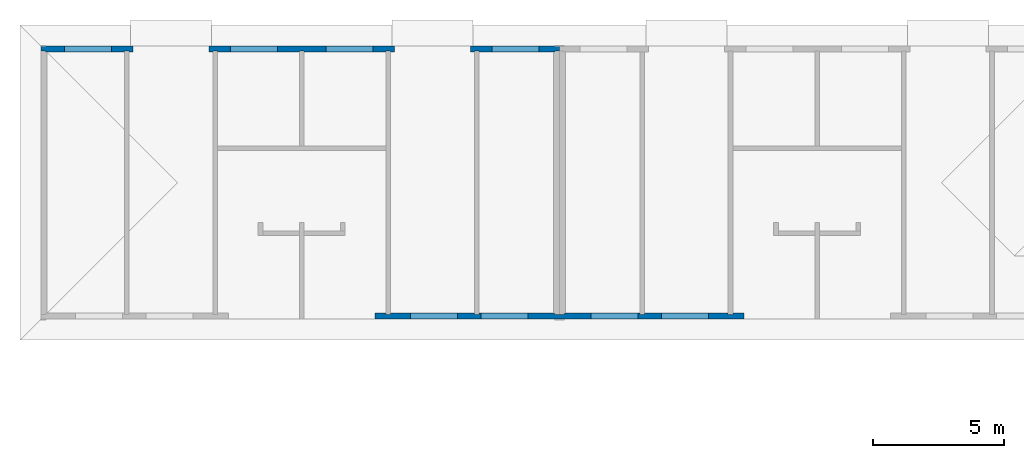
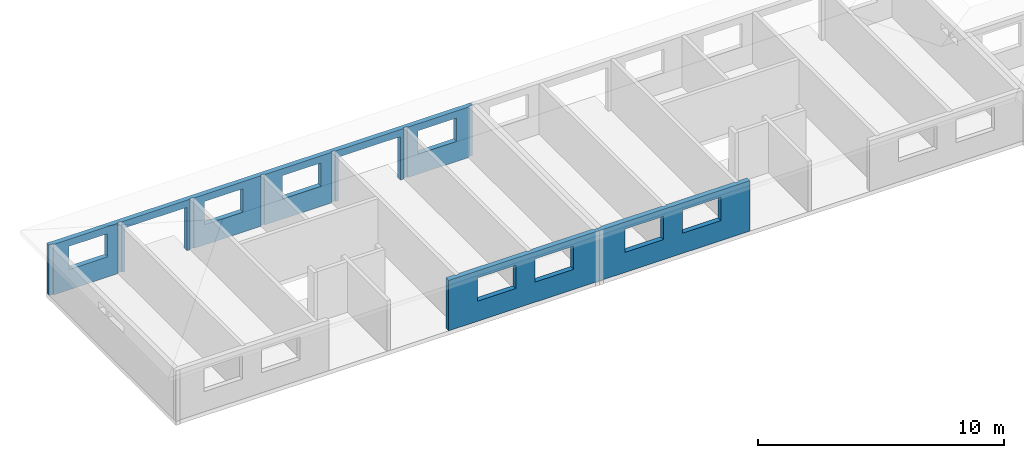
# One storey, part 3 of 9: 2 walls, 10 openings.
"""IFC2X3 building model written with IfcOpenShell, lengths in millimetres."""

from ifc_helpers import new_model, entity, si_unit, converted_unit, frame, frame_2d, origin, origin_with_axes, place, context, subcontext, project, spatial, polyline, rectangle, outline, extrude, material, layer, layer_set, layer_usage, element, save


model = new_model("IFC2X3")

# Units and contexts
model_context = context("Model", 3, precision=1e-05, world=origin())
plan_context = context("Plan", 3, precision=1e-05, world=origin())
body_context = subcontext(model_context, "Body", "Model", "MODEL_VIEW")
ifc_project = project(units=[si_unit("LENGTHUNIT", "METRE", prefix="MILLI"), converted_unit("PLANEANGLEUNIT", "DEGREE", entity("IfcPlaneAngleMeasure", 0.0174532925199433), si_unit("PLANEANGLEUNIT", "RADIAN"), dimensions=[0, 0, 0, 0, 0, 0, 0]), si_unit("AREAUNIT", "SQUARE_METRE"), si_unit("VOLUMEUNIT", "CUBIC_METRE")], contexts=[model_context, plan_context])

# Building, storey
building_placement = place(None, origin())
building = spatial("IfcBuilding", under=ifc_project, at=building_placement, Name="Bâtiment", CompositionType="ELEMENT")
storey_placement = place(building_placement, frame((0.0, 0.0, 8100.0), z_axis=(0.0, 0.0, 1.0), x_axis=(1.0, 0.0, 0.0)))
storey = spatial("IfcBuildingStorey", under=building, at=storey_placement, Name="r+3", CompositionType="ELEMENT", Elevation=8100.0)

# Wall, openings
ifc_material_1 = material(Name="moellons")
ifc_layer_1 = layer(ifc_material_1, 180.0)
ifc_material_2 = material(Name="briquettes")
ifc_layer_2 = layer(ifc_material_2, 40.0)
ifc_material_3 = material(Name="enduit platre")
ifc_layer_3 = layer(ifc_material_3, 10.0)
ifc_layer_set_1 = layer_set([ifc_layer_1, ifc_layer_2, ifc_layer_3])
ifc_layer_usage_1 = layer_usage(ifc_layer_set_1, "AXIS2", "POSITIVE", 0.0)
wall_1_placement = place(storey_placement, frame((12795.0005468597, 20.16279356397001, 0.0), z_axis=(0.0, 0.0, 1.0), x_axis=(1.0, 0.0, 0.0)))
wall_1 = element("IfcWallStandardCase", 1, at=wall_1_placement, inside=storey, material=ifc_layer_usage_1, context=body_context, shape_type="SweptSolid", body=[
    extrude(outline(polyline([(7274.999453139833, 230.0), (7274.999453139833, 220.0), (7234.999453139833, 220.0), (7234.999453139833, 180.0), (6874.999453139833, 180.0), (6874.999453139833, 220.0), (6834.999453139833, 220.0), (6834.999453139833, 230.0), (3974.999453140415, 230.0), (3974.999453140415, 179.9147573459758), (3794.999453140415, 179.9147573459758), (3794.999453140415, 230.0), (594.999391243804, 230.0), (594.999391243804, 179.9147573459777), (414.999391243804, 179.9147573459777), (414.999391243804, 230.0), (0.0, 230.0), (0.0, 0.0), (14109.99999999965, 0.0), (14109.99999999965, 230.0), (13694.99951490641, 230.0), (13694.99951490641, 179.914757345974), (13514.99951490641, 179.914757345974), (13514.99951490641, 230.0), (10314.99945313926, 230.0), (10314.99945313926, 179.914757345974), (10134.99945313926, 179.914757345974), (10134.99945313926, 230.0), (7274.999453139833, 230.0)])), origin_with_axes(), (0.0, 0.0, 1.0), 2500.0),
])
opening_1_placement = place(wall_1_placement, frame((10959.99945313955, 0.0, 1000.0), z_axis=(0.0, 1.0, 0.0), x_axis=(0.0, 0.0, 1.0)))
element("IfcOpeningElement", 2, at=opening_1_placement, cuts=wall_1, Name="Baie de fenêtre", ObjectType="Opening", context=body_context, shape_type="SweptSolid", body=[
    extrude(rectangle(XDim=1150.0, YDim=1800.0, at=frame_2d((575.0, 900.0), x_axis=(1.0, 0.0))), origin_with_axes(), (0.0, 0.0, 1.0), 230.0),
])
opening_2_placement = place(wall_1_placement, frame((8259.999453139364, 0.0, 1000.0), z_axis=(0.0, 1.0, 0.0), x_axis=(0.0, 0.0, 1.0)))
element("IfcOpeningElement", 3, at=opening_2_placement, cuts=wall_1, Name="Baie de fenêtre", ObjectType="Opening", context=body_context, shape_type="SweptSolid", body=[
    extrude(rectangle(XDim=1150.0, YDim=1800.0, at=frame_2d((575.0, 900.0), x_axis=(1.0, 0.0))), origin_with_axes(), (0.0, 0.0, 1.0), 230.0),
])
opening_3_placement = place(wall_1_placement, frame((4049.999453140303, 0.0, 1000.0), z_axis=(0.0, 1.0, 0.0), x_axis=(0.0, 0.0, 1.0)))
element("IfcOpeningElement", 4, at=opening_3_placement, cuts=wall_1, Name="Baie de fenêtre", ObjectType="Opening", context=body_context, shape_type="SweptSolid", body=[
    extrude(rectangle(XDim=1150.0, YDim=1800.0, at=frame_2d((575.0, 900.0), x_axis=(1.0, 0.0))), origin_with_axes(), (0.0, 0.0, 1.0), 230.0),
])
opening_4_placement = place(wall_1_placement, frame((1349.999453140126, 0.0, 1000.0), z_axis=(0.0, 1.0, 0.0), x_axis=(0.0, 0.0, 1.0)))
element("IfcOpeningElement", 5, at=opening_4_placement, cuts=wall_1, Name="Baie de fenêtre", ObjectType="Opening", context=body_context, shape_type="SweptSolid", body=[
    extrude(rectangle(XDim=1150.0, YDim=1800.0, at=frame_2d((575.0, 900.0), x_axis=(1.0, 0.0))), origin_with_axes(), (0.0, 0.0, 1.0), 230.0),
])

ifc_material_4 = material(Name="moellons")
ifc_layer_4 = layer(ifc_material_4, 180.0000000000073)
ifc_material_5 = material(Name="briquettes")
ifc_layer_5 = layer(ifc_material_5, 40.0)
ifc_material_6 = material(Name="enduit platre")
ifc_layer_6 = layer(ifc_material_6, 10.0)
ifc_layer_set_2 = layer_set([ifc_layer_4, ifc_layer_5, ifc_layer_6])
ifc_layer_usage_2 = layer_usage(ifc_layer_set_2, "AXIS2", "POSITIVE", 0.0)
wall_2_placement = place(storey_placement, frame((19849.99999999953, 10470.07776548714, 0.0), z_axis=(0.0, 0.0, 1.0), x_axis=(-1.0, 9.163674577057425e-17, 0.0)))
wall_2 = element("IfcWallStandardCase", 6, at=wall_2_placement, inside=storey, material=ifc_layer_usage_2, context=body_context, shape_type="SweptSolid", body=[
    extrude(outline(polyline([(16649.99999999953, 179.9999999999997), (16469.99999999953, 180.0000000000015), (16469.99999999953, 229.9999999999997), (13269.99999999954, 230.0000000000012), (13269.99999999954, 179.9999999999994), (13089.99999999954, 180.0000000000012), (13089.99999999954, 230.0000000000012), (9954.999999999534, 230.0000000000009), (9954.999999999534, 179.9999999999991), (9774.999999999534, 180.0000000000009), (9774.999999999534, 230.0000000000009), (6640.000061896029, 230.0000000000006), (6640.000061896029, 180.0000000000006), (6460.000061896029, 180.0000000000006), (6460.000061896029, 230.0000000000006), (3259.999999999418, 230.0000000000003), (3259.999999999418, 180.0000000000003), (3079.999999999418, 180.0000000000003), (3079.999999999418, 230.0000000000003), (220.0, 230.0), (220.0, 220.0), (180.0, 220.0), (180.0, 180.0), (-1.649461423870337e-14, 180.0), (0.0, 0.0), (19849.99999999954, 0.0), (19849.99999999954, 180.0), (19669.99999999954, 180.0), (19669.99999999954, 220.0), (19629.99999999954, 220.0), (19629.99999999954, 230.0), (16649.99999999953, 229.9999999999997), (16649.99999999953, 179.9999999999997)])), origin_with_axes(), (0.0, 0.0, 1.0), 2500.0),
])
opening_5_placement = place(wall_2_placement, frame((3410.031276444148, 0.0, 0.0), z_axis=(0.0, 1.0, 0.0), x_axis=(0.0, 0.0, 1.0)))
element("IfcOpeningElement", 7, at=opening_5_placement, cuts=wall_2, Name="Baie de porte", ObjectType="Opening", context=body_context, shape_type="SweptSolid", body=[
    extrude(rectangle(XDim=2150.0, YDim=2900.0, at=frame_2d((1075.0, 1450.0), x_axis=(1.0, 0.0))), origin_with_axes(), (0.0, 0.0, 1.0), 230.0),
])
opening_6_placement = place(wall_2_placement, frame((13419.62981094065, -1.818989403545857e-12, 0.0), z_axis=(0.0, 1.0, 0.0), x_axis=(0.0, 0.0, 1.0)))
element("IfcOpeningElement", 8, at=opening_6_placement, cuts=wall_2, Name="Baie de porte", ObjectType="Opening", context=body_context, shape_type="SweptSolid", body=[
    extrude(rectangle(XDim=2150.0, YDim=2900.0, at=frame_2d((1075.0, 1450.0), x_axis=(1.0, 0.0))), origin_with_axes(), (0.0, 0.0, 1.0), 230.0000000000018),
])
opening_7_placement = place(wall_2_placement, frame((784.9999999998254, 0.0, 1000.0), z_axis=(0.0, 1.0, 0.0), x_axis=(0.0, 0.0, 1.0)))
element("IfcOpeningElement", 9, at=opening_7_placement, cuts=wall_2, Name="Baie de fenêtre", ObjectType="Opening", context=body_context, shape_type="SweptSolid", body=[
    extrude(rectangle(XDim=1150.0, YDim=1800.0, at=frame_2d((575.0, 900.0), x_axis=(1.0, 0.0))), origin_with_axes(), (0.0, 0.0, 1.0), 230.0),
])
opening_8_placement = place(wall_2_placement, frame((7134.999999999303, 0.0, 1000.0), z_axis=(0.0, 1.0, 0.0), x_axis=(0.0, 0.0, 1.0)))
element("IfcOpeningElement", 10, at=opening_8_placement, cuts=wall_2, Name="Baie de fenêtre", ObjectType="Opening", context=body_context, shape_type="SweptSolid", body=[
    extrude(rectangle(XDim=1150.0, YDim=1800.0, at=frame_2d((575.0, 900.0), x_axis=(1.0, 0.0))), origin_with_axes(), (0.0, 0.0, 1.0), 229.9999999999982),
])
opening_9_placement = place(wall_2_placement, frame((10794.99999999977, -1.818989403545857e-12, 1000.0), z_axis=(0.0, 1.0, 0.0), x_axis=(0.0, 0.0, 1.0)))
element("IfcOpeningElement", 11, at=opening_9_placement, cuts=wall_2, Name="Baie de fenêtre", ObjectType="Opening", context=body_context, shape_type="SweptSolid", body=[
    extrude(rectangle(XDim=1150.0, YDim=1800.0, at=frame_2d((575.0, 900.0), x_axis=(1.0, 0.0))), origin_with_axes(), (0.0, 0.0, 1.0), 229.9999999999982),
])
opening_10_placement = place(wall_2_placement, frame((17144.9999999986, -1.818989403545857e-12, 1000.0), z_axis=(0.0, 1.0, 0.0), x_axis=(0.0, 0.0, 1.0)))
element("IfcOpeningElement", 12, at=opening_10_placement, cuts=wall_2, Name="Baie de fenêtre", ObjectType="Opening", context=body_context, shape_type="SweptSolid", body=[
    extrude(rectangle(XDim=1150.0, YDim=1800.0, at=frame_2d((575.0, 900.0), x_axis=(1.0, 0.0))), origin_with_axes(), (0.0, 0.0, 1.0), 230.0),
])

save(model, "model.ifc")
